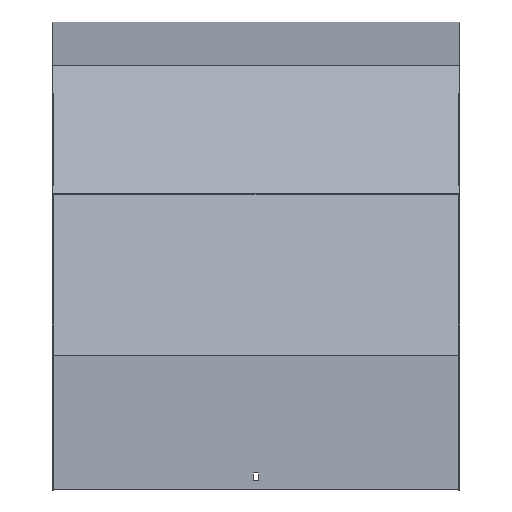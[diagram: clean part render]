
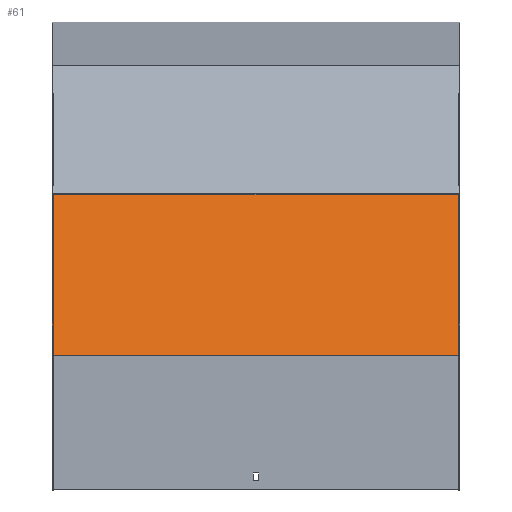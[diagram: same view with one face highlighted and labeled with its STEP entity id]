
A CAD part, top view. The second image highlights one B-rep face of the part: STEP entity #61.
In plain terms, the highlighted planar face has unit normal (0, 0.259, 0.966).
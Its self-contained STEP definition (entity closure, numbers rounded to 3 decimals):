
#3 = CARTESIAN_POINT ( 'NONE',  ( 251.5, -392.412, 579.045 ) ) ;
#42 = DIRECTION ( 'NONE',  ( 0., -0.966, 0.259 ) ) ;
#61 = ADVANCED_FACE ( 'NONE', ( #690 ), #1006, .F. ) ;
#126 = LINE ( 'NONE', #227, #355 ) ;
#143 = LINE ( 'NONE', #1014, #836 ) ;
#151 = EDGE_CURVE ( 'NONE', #584, #358, #769, .T. ) ;
#159 = DIRECTION ( 'NONE',  ( 0., 0.966, -0.259 ) ) ;
#169 = ORIENTED_EDGE ( 'NONE', *, *, #498, .F. ) ;
#202 = CARTESIAN_POINT ( 'NONE',  ( -251.5, -197.649, 526.859 ) ) ;
#227 = CARTESIAN_POINT ( 'NONE',  ( 251.5, -197.649, 526.859 ) ) ;
#235 = DIRECTION ( 'NONE',  ( 0., -0.259, -0.966 ) ) ;
#243 = CARTESIAN_POINT ( 'NONE',  ( 251.5, -197.649, 526.859 ) ) ;
#253 = ORIENTED_EDGE ( 'NONE', *, *, #607, .T. ) ;
#260 = ORIENTED_EDGE ( 'NONE', *, *, #739, .T. ) ;
#300 = CARTESIAN_POINT ( 'NONE',  ( -251.5, -192.473, 525.472 ) ) ;
#355 = VECTOR ( 'NONE', #42, 1000. ) ;
#358 = VERTEX_POINT ( 'NONE', #547 ) ;
#416 = CARTESIAN_POINT ( 'NONE',  ( 251.5, -192.473, 525.472 ) ) ;
#449 = LINE ( 'NONE', #202, #918 ) ;
#498 = EDGE_CURVE ( 'NONE', #593, #584, #126, .T. ) ;
#547 = CARTESIAN_POINT ( 'NONE',  ( -251.5, -392.412, 579.045 ) ) ;
#584 = VERTEX_POINT ( 'NONE', #919 ) ;
#593 = VERTEX_POINT ( 'NONE', #416 ) ;
#607 = EDGE_CURVE ( 'NONE', #593, #794, #143, .T. ) ;
#629 = DIRECTION ( 'NONE',  ( 0., -0.966, 0.259 ) ) ;
#640 = VECTOR ( 'NONE', #1107, 1000. ) ;
#690 = FACE_OUTER_BOUND ( 'NONE', #785, .T. ) ;
#739 = EDGE_CURVE ( 'NONE', #794, #358, #449, .T. ) ;
#769 = LINE ( 'NONE', #3, #640 ) ;
#785 = EDGE_LOOP ( 'NONE', ( #260, #935, #169, #253 ) ) ;
#794 = VERTEX_POINT ( 'NONE', #300 ) ;
#836 = VECTOR ( 'NONE', #939, 1000. ) ;
#918 = VECTOR ( 'NONE', #629, 1000. ) ;
#919 = CARTESIAN_POINT ( 'NONE',  ( 251.5, -392.412, 579.045 ) ) ;
#935 = ORIENTED_EDGE ( 'NONE', *, *, #151, .F. ) ;
#939 = DIRECTION ( 'NONE',  ( -1., 0., 0. ) ) ;
#1006 = PLANE ( 'NONE',  #1020 ) ;
#1014 = CARTESIAN_POINT ( 'NONE',  ( 251.5, -192.473, 525.472 ) ) ;
#1020 = AXIS2_PLACEMENT_3D ( 'NONE', #243, #235, #159 ) ;
#1107 = DIRECTION ( 'NONE',  ( -1., 0., 0. ) ) ;
